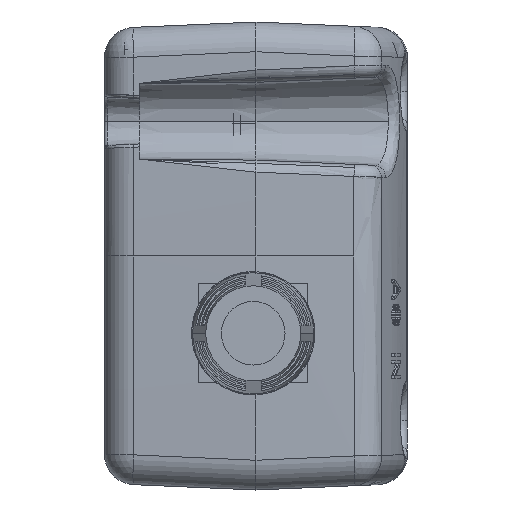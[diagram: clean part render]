
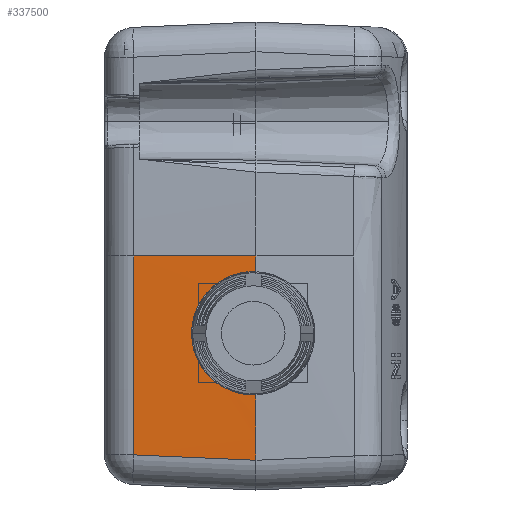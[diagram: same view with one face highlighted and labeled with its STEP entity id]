
A CAD part, left-side view. The second image highlights one B-rep face of the part: STEP entity #337500.
In plain terms, the highlighted conical face has half-angle 2.5 degrees and reference radius 1261.25 mm.
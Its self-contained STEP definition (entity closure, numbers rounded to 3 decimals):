
#73620=CARTESIAN_POINT('',(-17.16,116.623,-16.475
));
#73630=VERTEX_POINT('',#73620);
#73880=CARTESIAN_POINT('',(-17.319,116.623,
3.75));
#73890=VERTEX_POINT('',#73880);
#73920=CARTESIAN_POINT('',(1244.196,116.623,
3.75));
#73930=DIRECTION('',(0.,1.,0.));
#73940=DIRECTION('',(1.,0.,0.));
#73950=AXIS2_PLACEMENT_3D('',#73920,#73930,#73940);
#73960=CIRCLE('',#73950,1261.515);
#302350=CARTESIAN_POINT('',(-16.636,128.754,
-15.944));
#302360=VERTEX_POINT('',#302350);
#302410=CARTESIAN_POINT('',(-16.636,128.754,
-15.944));
#302420=CARTESIAN_POINT('',(-16.694,127.406,
-16.003));
#302430=CARTESIAN_POINT('',(-16.81,124.71,
-16.121));
#302440=CARTESIAN_POINT('',(-16.983,120.666,
-16.298));
#302450=CARTESIAN_POINT('',(-17.099,117.971,
-16.416));
#302460=CARTESIAN_POINT('',(-17.157,116.623,-16.475))
;
#302470=B_SPLINE_CURVE_WITH_KNOTS('',3,(#302410,#302420,#302430,#302440,
#302450,#302460),.UNSPECIFIED.,.F.,.F.,(4,1,1,4),(0.,0.333,
0.667,1.),.UNSPECIFIED.);
#302480=EDGE_CURVE('',#302360,#73630,#302470,.T.);
#303910=CARTESIAN_POINT('',(-17.306,116.9,
2.199));
#303920=VERTEX_POINT('',#303910);
#303950=CARTESIAN_POINT('',(-17.244,116.623,-9.998))
;
#303960=CARTESIAN_POINT('',(-17.226,117.034,
-10.017));
#303970=CARTESIAN_POINT('',(-17.191,117.859,
-9.971));
#303980=CARTESIAN_POINT('',(-17.142,119.057,
-9.655));
#303990=CARTESIAN_POINT('',(-17.099,120.168,
-9.105));
#304000=CARTESIAN_POINT('',(-17.064,121.145,
-8.344));
#304010=CARTESIAN_POINT('',(-17.038,121.95,
-7.402));
#304020=CARTESIAN_POINT('',(-17.021,122.549,
-6.318));
#304030=CARTESIAN_POINT('',(-17.013,122.918,
-5.136));
#304040=CARTESIAN_POINT('',(-17.016,123.043,
-3.904));
#304050=CARTESIAN_POINT('',(-17.028,122.919,
-2.672));
#304060=CARTESIAN_POINT('',(-17.05,122.549,
-1.49));
#304070=CARTESIAN_POINT('',(-17.08,121.95,
-0.405));
#304080=CARTESIAN_POINT('',(-17.118,121.146,
0.537));
#304090=CARTESIAN_POINT('',(-17.162,120.168,
1.299));
#304100=CARTESIAN_POINT('',(-17.212,119.058,
1.849));
#304110=CARTESIAN_POINT('',(-17.264,117.859,
2.165));
#304120=CARTESIAN_POINT('',(-17.3,117.034,
2.211));
#304130=CARTESIAN_POINT('',(-17.318,116.623,2.192));
#304140=B_SPLINE_CURVE_WITH_KNOTS('',3,(#303950,#303960,#303970,#303980,
#303990,#304000,#304010,#304020,#304030,#304040,#304050,#304060,#304070,
#304080,#304090,#304100,#304110,#304120,#304130),.UNSPECIFIED.,.F.,.F.,(
4,1,1,1,1,1,1,1,1,1,1,1,1,1,1,1,4),(0.,0.063,0.125,0.188,0.25,0.313,
0.375,0.438,0.5,0.563,0.625,0.688,0.75,0.813,0.875,0.938,1.),
.UNSPECIFIED.);
#304150=CARTESIAN_POINT('',(-17.318,116.623,
2.192));
#304160=VERTEX_POINT('',#304150);
#304170=EDGE_CURVE('',#303920,#304160,#304140,.T.);
#304380=CARTESIAN_POINT('',(-17.244,116.623,
-9.998));
#304390=VERTEX_POINT('',#304380);
#304420=CARTESIAN_POINT('',(-17.232,116.9,
-10.005));
#304430=VERTEX_POINT('',#304420);
#304440=EDGE_CURVE('',#304390,#304430,#304140,.T.);
#304570=CARTESIAN_POINT('',(1244.196,122.688,3.75
));
#304580=DIRECTION('',(0.,-1.,0.));
#304590=DIRECTION('',(-1.,0.,0.));
#304600=AXIS2_PLACEMENT_3D('',#304570,#304580,#304590);
#304610=CONICAL_SURFACE('',#304600,1261.25,0.044);
#304810=CARTESIAN_POINT('',(-17.054,122.688,3.75)
);
#304820=DIRECTION('',(-0.044,-0.999,0.));
#304830=VECTOR('',#304820,1.);
#304840=LINE('',#304810,#304830);
#304850=CARTESIAN_POINT('',(-16.79,128.754,
3.75));
#304860=VERTEX_POINT('',#304850);
#304870=EDGE_CURVE('',#304860,#73890,#304840,.T.);
#304890=CARTESIAN_POINT('',(1244.196,128.754,3.75
));
#304900=DIRECTION('',(0.,-1.,0.));
#304910=DIRECTION('',(-1.,0.,0.009));
#304920=AXIS2_PLACEMENT_3D('',#304890,#304900,#304910);
#304930=CIRCLE('',#304920,1260.985);
#334990=EDGE_CURVE('',#304430,#303920,#304140,.T.);
#336960=CARTESIAN_POINT('',(1244.196,116.623,
3.75));
#336970=DIRECTION('',(0.,1.,0.));
#336980=DIRECTION('',(1.,0.,0.));
#336990=AXIS2_PLACEMENT_3D('',#336960,#336970,#336980);
#337000=CIRCLE('',#336990,1261.515);
#337010=EDGE_CURVE('',#73630,#304390,#337000,.T.);
#337040=EDGE_CURVE('',#304160,#73890,#73960,.T.);
#337390=ORIENTED_EDGE('',*,*,#337040,.T.);
#337400=ORIENTED_EDGE('',*,*,#304170,.T.);
#337410=ORIENTED_EDGE('',*,*,#334990,.T.);
#337420=ORIENTED_EDGE('',*,*,#304440,.T.);
#337430=ORIENTED_EDGE('',*,*,#337010,.T.);
#337440=ORIENTED_EDGE('',*,*,#302480,.T.);
#337450=EDGE_CURVE('',#304860,#302360,#304930,.T.);
#337460=ORIENTED_EDGE('',*,*,#337450,.T.);
#337470=ORIENTED_EDGE('',*,*,#304870,.F.);
#337480=EDGE_LOOP('',(#337470,#337460,#337440,#337430,#337420,#337410,
#337400,#337390));
#337490=FACE_OUTER_BOUND('',#337480,.T.);
#337500=ADVANCED_FACE('',(#337490),#304610,.T.);
